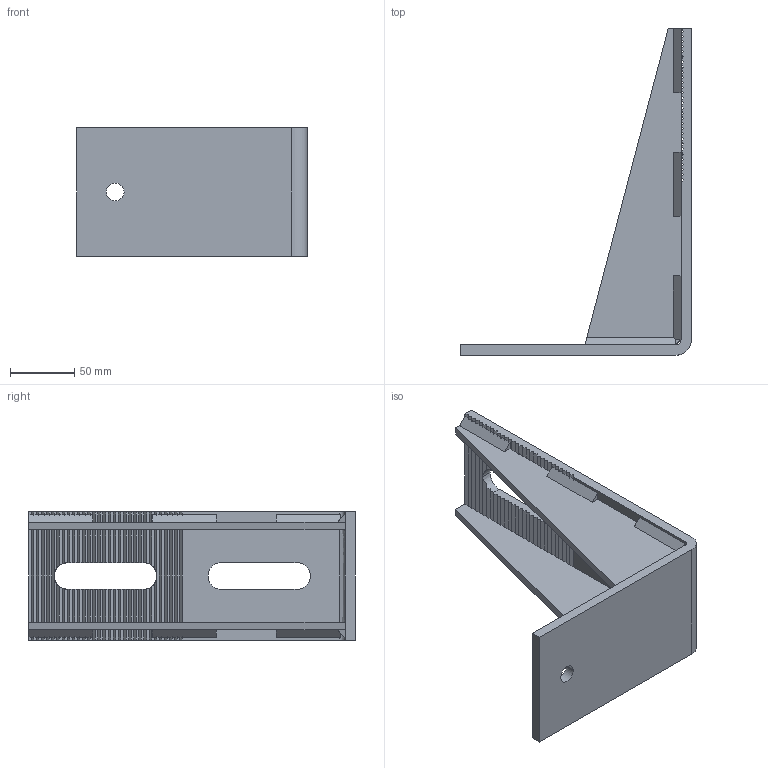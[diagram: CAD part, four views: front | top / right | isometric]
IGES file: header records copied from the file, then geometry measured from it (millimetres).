
Start section: 3D InterOp IGES (v. 2019 1.0.2), Spatial Corp. Copyright (c) 1999-2017.
Global section: file name: MPA01.igs; native system: Spatial Corp.; preprocessor: 3D InterOp GENERIC/IGES 3.0; author: Noname; organization: Noname; date: 20210211.124227; units: millimetre
Bounding box: 180 x 255 x 100 mm (x, y, z)
Surface area: 138419.3 mm2 (no closed solid volume)
Topology: 0 solids, 0 shells, 298 faces, 2496 edges, 2496 vertices
Faces by surface type: extrusion 288, revolution 10
